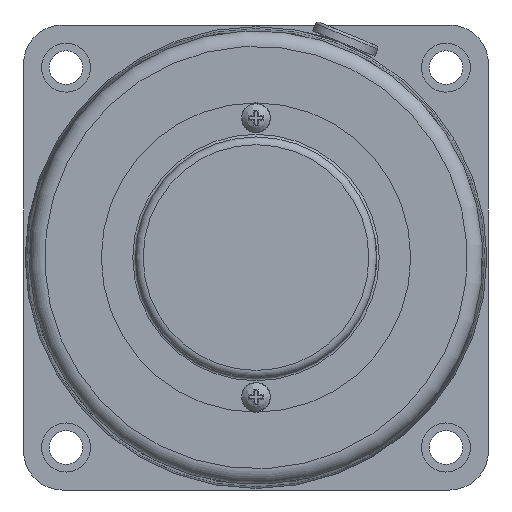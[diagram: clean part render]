
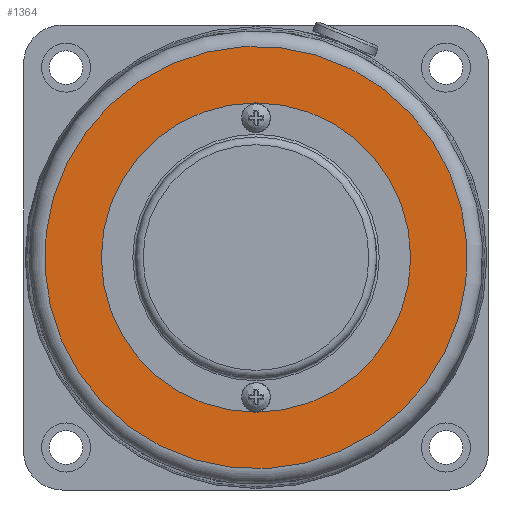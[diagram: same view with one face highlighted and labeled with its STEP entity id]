
A CAD part, left-side view. The second image highlights one B-rep face of the part: STEP entity #1364.
In plain terms, the highlighted planar face has unit normal (-1, 0, 0).
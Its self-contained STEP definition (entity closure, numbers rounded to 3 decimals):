
#1337=CARTESIAN_POINT('',(-40.5,0.,0.));
#1338=DIRECTION('',(-1.0,0.0,0.0));
#1339=DIRECTION('',(0.0,0.395,0.918));
#1340=AXIS2_PLACEMENT_3D('',#1337,#1338,#1339);
#1341=PLANE('',#1340);
#1342=CARTESIAN_POINT('',(-40.5,-16.174,-37.566));
#1343=VERTEX_POINT('',#1342);
#1344=CARTESIAN_POINT('',(-40.5,0.,0.));
#1345=DIRECTION('',(1.,0.,0.));
#1346=DIRECTION('',(0.,0.395,0.918));
#1347=AXIS2_PLACEMENT_3D('',#1344,#1345,#1346);
#1348=CIRCLE('',#1347,40.9);
#1349=EDGE_CURVE('',#1343,#1343,#1348,.T.);
#1350=ORIENTED_EDGE('',*,*,#1349,.F.);
#1351=EDGE_LOOP('',(#1350));
#1352=FACE_OUTER_BOUND('',#1351,.T.);
#1353=CARTESIAN_POINT('',(-40.5,0.,29.95));
#1354=VERTEX_POINT('',#1353);
#1355=CARTESIAN_POINT('',(-40.5,0.,0.));
#1356=DIRECTION('',(-1.0,0.0,0.0));
#1357=DIRECTION('',(0.0,0.0,-1.0));
#1358=AXIS2_PLACEMENT_3D('',#1355,#1356,#1357);
#1359=CIRCLE('',#1358,29.95);
#1360=EDGE_CURVE('',#1354,#1354,#1359,.T.);
#1361=ORIENTED_EDGE('',*,*,#1360,.F.);
#1362=EDGE_LOOP('',(#1361));
#1363=FACE_BOUND('',#1362,.T.);
#1364=ADVANCED_FACE('',(#1352,#1363),#1341,.T.);
